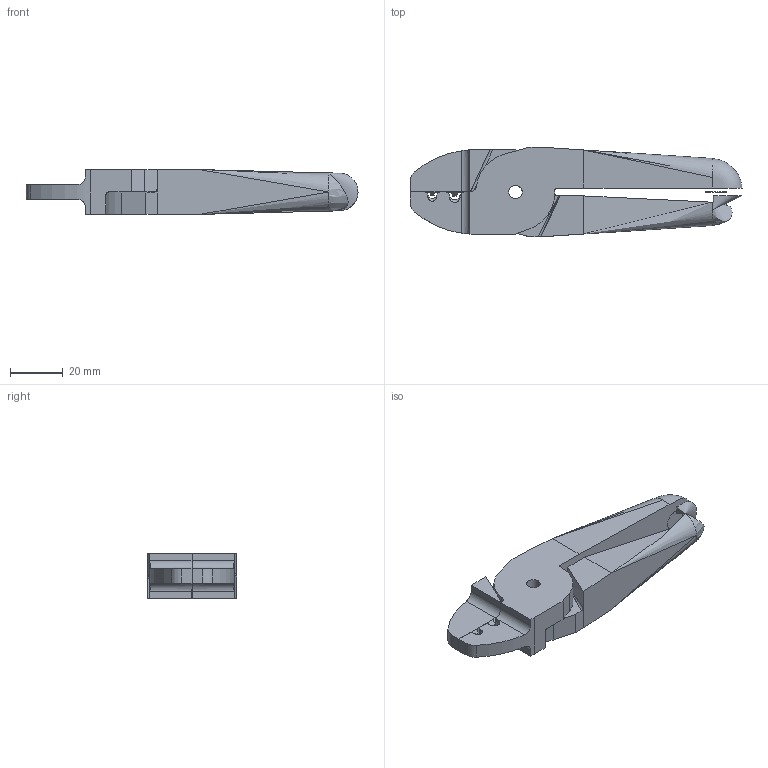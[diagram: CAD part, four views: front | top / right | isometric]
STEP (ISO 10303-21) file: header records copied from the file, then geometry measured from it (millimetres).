
FILE_DESCRIPTION (( 'STEP AP214' ), '1' );
FILE_NAME ('N30ACD.STEP', '2019-11-29T03:03:58', ( '微软用户' ), ( '微软中国' ), 'SwSTEP 2.0', 'SolidWorks 2016', '' );
FILE_SCHEMA (( 'AUTOMOTIVE_DESIGN' ));
Length unit declared in the file: millimetre
Products named in the file (1): N30ACD
Bounding box: 126 x 34 x 17 mm (x, y, z)
Surface area: 14482.2 mm2 (no closed solid volume)
Topology: 0 solids, 2 shells, 113 faces, 336 edges, 213 vertices
Faces by surface type: plane 67, cylinder 36, bspline 10
Entity records: 6314 total; most frequent: CARTESIAN_POINT 3470, ORIENTED_EDGE 612, DIRECTION 529, EDGE_CURVE 329, VECTOR 221, LINE 221, VERTEX_POINT 213, AXIS2_PLACEMENT_3D 154
